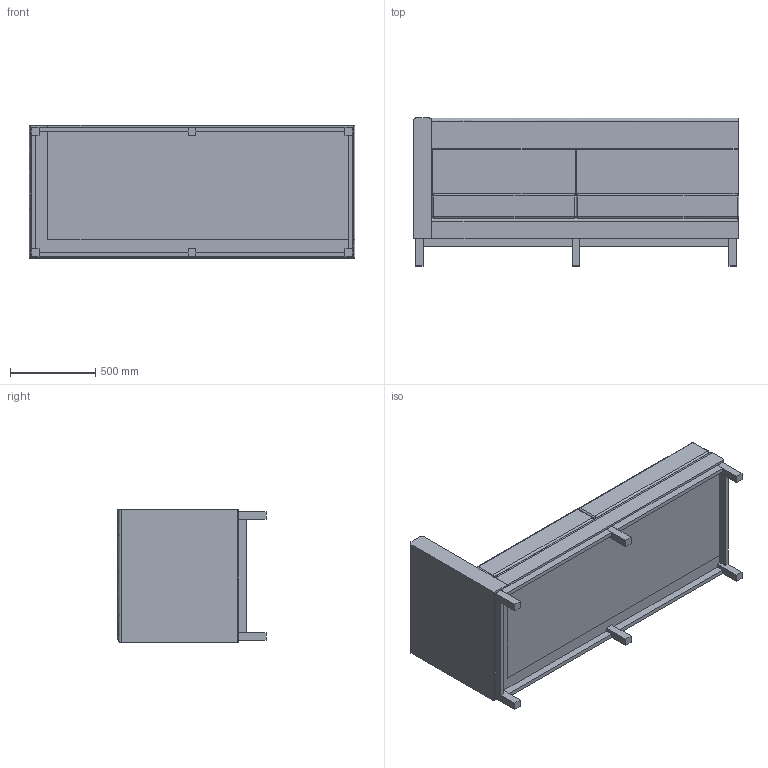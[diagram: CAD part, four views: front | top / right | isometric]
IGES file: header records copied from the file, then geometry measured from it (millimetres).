
Start section: SolidWorks IGES file using analytic representation for surfaces
Global section: file name: P:\3D CAD BLOCKS\ARTHUR CITYSCAPE\LB Plain Compact RH\IGS\ART-LB-PLAIN-COMP-ART-CITY-RH.IGS; native system: SolidWorks 2012; preprocessor: SolidWorks 2012; author: tom; date: 160523.093450; units: millimetre
Bounding box: 1910 x 868 x 780 mm (x, y, z)
Surface area: 12646327.7 mm2 (no closed solid volume)
Topology: 0 solids, 0 shells, 200 faces, 972 edges, 965 vertices
Faces by surface type: bspline 110, revolution 90
